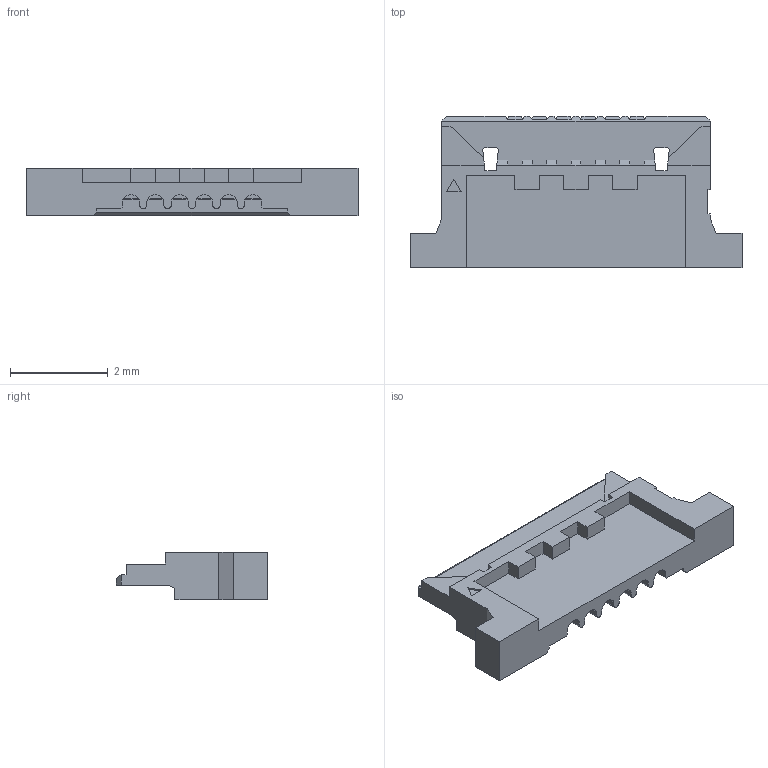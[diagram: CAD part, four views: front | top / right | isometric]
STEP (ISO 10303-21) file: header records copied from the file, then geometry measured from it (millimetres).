
FILE_DESCRIPTION (( 'STEP AP214' ), '1' );
FILE_NAME ('20598-PLUG HSG ASS''Y 6P.STEP', '2015-07-22T06:19:54', ( '' ), ( '' ), 'SwSTEP 2.0', 'SolidWorks 2012', '' );
FILE_SCHEMA (( 'AUTOMOTIVE_DESIGN' ));
Length unit declared in the file: millimetre
Products named in the file (1): 20598-PLUG HSG ASS''Y 6P
Bounding box: 6.8 x 3.1 x 0.98 mm (x, y, z)
Volume: 8.6 mm3; surface area: 59 mm2
Topology: 1 solids, 1 shells, 260 faces, 743 edges, 482 vertices
Faces by surface type: plane 237, cylinder 23
Entity records: 8347 total; most frequent: CARTESIAN_POINT 1522, ORIENTED_EDGE 1486, DIRECTION 1311, EDGE_CURVE 743, VECTOR 673, LINE 673, VERTEX_POINT 482, AXIS2_PLACEMENT_3D 319
